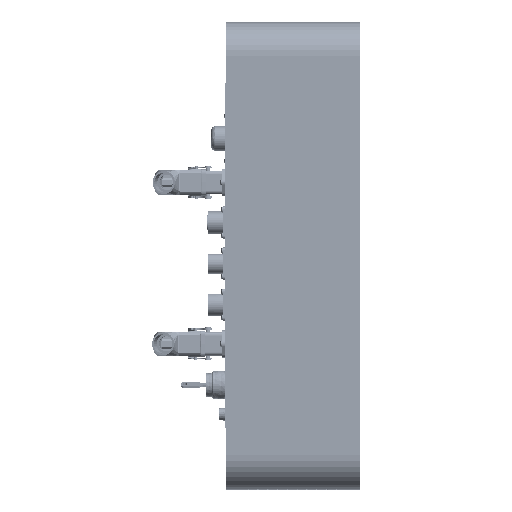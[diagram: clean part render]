
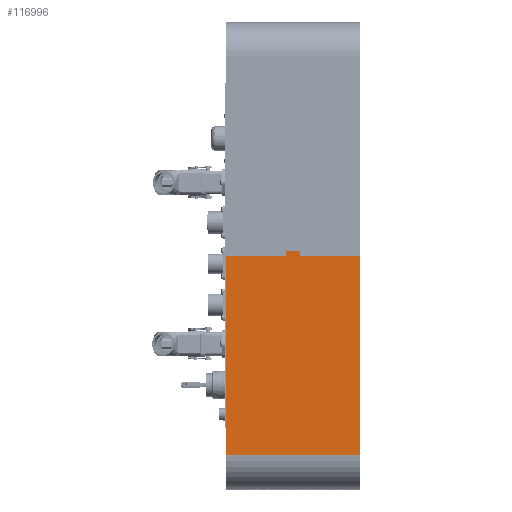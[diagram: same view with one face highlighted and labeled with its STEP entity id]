
A CAD part, top view. The second image highlights one B-rep face of the part: STEP entity #116996.
In plain terms, the highlighted planar face has unit normal (0, 0, 1).
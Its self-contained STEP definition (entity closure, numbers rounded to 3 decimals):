
#3651 = AXIS2_PLACEMENT_3D ( 'NONE', #205484, #225964, #105386 ) ;
#3774 = CARTESIAN_POINT ( 'NONE',  ( -7.5, -108.826, 189.75 ) ) ;
#4039 = ORIENTED_EDGE ( 'NONE', *, *, #139542, .T. ) ;
#6132 = VECTOR ( 'NONE', #231994, 1000. ) ;
#9703 = CARTESIAN_POINT ( 'NONE',  ( 0., -237.75, 189.75 ) ) ;
#12263 = LINE ( 'NONE', #115636, #6132 ) ;
#12406 = DIRECTION ( 'NONE',  ( 1., 0., 0. ) ) ;
#20010 = CARTESIAN_POINT ( 'NONE',  ( -68.5, -108.826, 189.75 ) ) ;
#25343 = CARTESIAN_POINT ( 'NONE',  ( 0., -237.75, 189.75 ) ) ;
#41747 = EDGE_CURVE ( 'NONE', #191947, #85503, #12263, .T. ) ;
#44756 = ORIENTED_EDGE ( 'NONE', *, *, #92248, .T. ) ;
#51036 = ORIENTED_EDGE ( 'NONE', *, *, #200240, .T. ) ;
#51722 = CARTESIAN_POINT ( 'NONE',  ( 68.5, -108.826, 189.75 ) ) ;
#56671 = CARTESIAN_POINT ( 'NONE',  ( 0., -242.75, 189.75 ) ) ;
#59560 = ORIENTED_EDGE ( 'NONE', *, *, #168716, .F. ) ;
#61086 = ORIENTED_EDGE ( 'NONE', *, *, #67110, .T. ) ;
#66080 = CARTESIAN_POINT ( 'NONE',  ( 68.5, -34., 189.75 ) ) ;
#67110 = EDGE_CURVE ( 'NONE', #85503, #224366, #208884, .T. ) ;
#68377 = ORIENTED_EDGE ( 'NONE', *, *, #41747, .T. ) ;
#69103 = EDGE_LOOP ( 'NONE', ( #61086, #4039, #59560, #51036, #212998, #44756, #75290, #68377 ) ) ;
#75022 = VECTOR ( 'NONE', #199905, 1000. ) ;
#75290 = ORIENTED_EDGE ( 'NONE', *, *, #104635, .T. ) ;
#75752 = LINE ( 'NONE', #56671, #143032 ) ;
#85503 = VERTEX_POINT ( 'NONE', #223536 ) ;
#90998 = DIRECTION ( 'NONE',  ( 0., 1., 0. ) ) ;
#92248 = EDGE_CURVE ( 'NONE', #230599, #186802, #244446, .T. ) ;
#93718 = CARTESIAN_POINT ( 'NONE',  ( -68.5, -34., 189.75 ) ) ;
#100374 = DIRECTION ( 'NONE',  ( 0., -1., 0. ) ) ;
#102130 = DIRECTION ( 'NONE',  ( 0., -1., 0. ) ) ;
#104635 = EDGE_CURVE ( 'NONE', #186802, #191947, #75752, .T. ) ;
#105386 = DIRECTION ( 'NONE',  ( 0., -1., 0. ) ) ;
#107794 = VECTOR ( 'NONE', #90998, 1000. ) ;
#115636 = CARTESIAN_POINT ( 'NONE',  ( 7.5, -108.826, 189.75 ) ) ;
#116996 = ADVANCED_FACE ( 'NONE', ( #161681 ), #206322, .T. ) ;
#119991 = VECTOR ( 'NONE', #186009, 1000. ) ;
#134286 = VERTEX_POINT ( 'NONE', #93718 ) ;
#139542 = EDGE_CURVE ( 'NONE', #224366, #158610, #159882, .T. ) ;
#143032 = VECTOR ( 'NONE', #193563, 1000. ) ;
#146491 = VECTOR ( 'NONE', #102130, 1000. ) ;
#148985 = LINE ( 'NONE', #251877, #246909 ) ;
#157537 = LINE ( 'NONE', #25343, #75022 ) ;
#158610 = VERTEX_POINT ( 'NONE', #66080 ) ;
#159777 = VECTOR ( 'NONE', #100374, 1000. ) ;
#159882 = LINE ( 'NONE', #51722, #107794 ) ;
#161681 = FACE_OUTER_BOUND ( 'NONE', #69103, .T. ) ;
#168716 = EDGE_CURVE ( 'NONE', #134286, #158610, #148985, .T. ) ;
#177977 = EDGE_CURVE ( 'NONE', #229227, #230599, #157537, .T. ) ;
#186009 = DIRECTION ( 'NONE',  ( 1., 0., 0. ) ) ;
#186802 = VERTEX_POINT ( 'NONE', #236038 ) ;
#191640 = CARTESIAN_POINT ( 'NONE',  ( -7.5, -237.75, 189.75 ) ) ;
#191947 = VERTEX_POINT ( 'NONE', #229977 ) ;
#193563 = DIRECTION ( 'NONE',  ( 1., 0., 0. ) ) ;
#198131 = CARTESIAN_POINT ( 'NONE',  ( 68.5, -237.75, 189.75 ) ) ;
#199905 = DIRECTION ( 'NONE',  ( 1., 0., 0. ) ) ;
#200240 = EDGE_CURVE ( 'NONE', #134286, #229227, #248608, .T. ) ;
#203364 = CARTESIAN_POINT ( 'NONE',  ( -68.5, -237.75, 189.75 ) ) ;
#205484 = CARTESIAN_POINT ( 'NONE',  ( 0., -108.826, 189.75 ) ) ;
#206322 = PLANE ( 'NONE',  #3651 ) ;
#208884 = LINE ( 'NONE', #9703, #119991 ) ;
#212998 = ORIENTED_EDGE ( 'NONE', *, *, #177977, .T. ) ;
#223536 = CARTESIAN_POINT ( 'NONE',  ( 7.5, -237.75, 189.75 ) ) ;
#224366 = VERTEX_POINT ( 'NONE', #198131 ) ;
#225964 = DIRECTION ( 'NONE',  ( 0., 0., 1. ) ) ;
#229227 = VERTEX_POINT ( 'NONE', #203364 ) ;
#229977 = CARTESIAN_POINT ( 'NONE',  ( 7.5, -242.75, 189.75 ) ) ;
#230599 = VERTEX_POINT ( 'NONE', #191640 ) ;
#231994 = DIRECTION ( 'NONE',  ( 0., 1., 0. ) ) ;
#236038 = CARTESIAN_POINT ( 'NONE',  ( -7.5, -242.75, 189.75 ) ) ;
#244446 = LINE ( 'NONE', #3774, #146491 ) ;
#246909 = VECTOR ( 'NONE', #12406, 1000. ) ;
#248608 = LINE ( 'NONE', #20010, #159777 ) ;
#251877 = CARTESIAN_POINT ( 'NONE',  ( 0., -34., 189.75 ) ) ;
